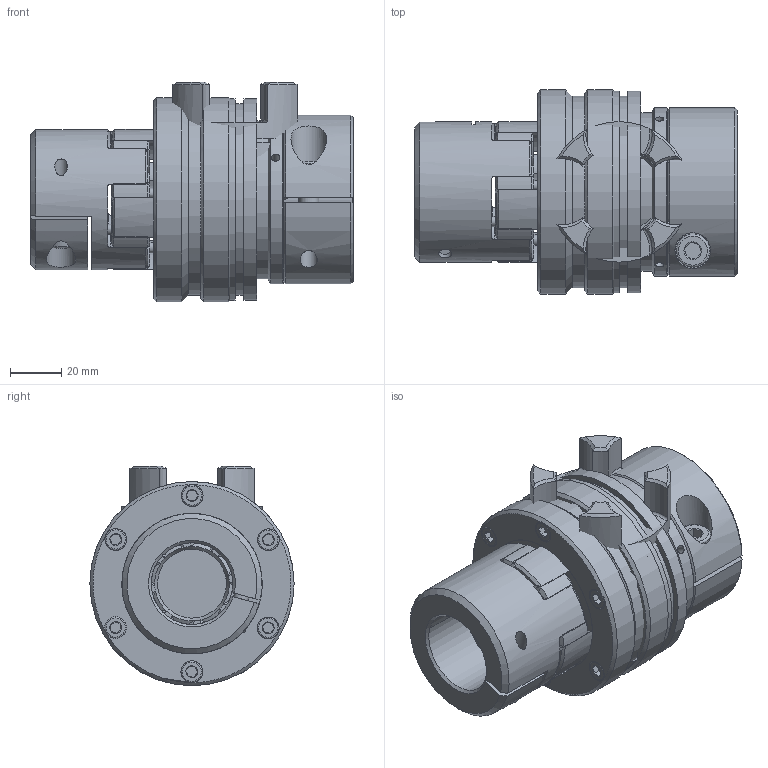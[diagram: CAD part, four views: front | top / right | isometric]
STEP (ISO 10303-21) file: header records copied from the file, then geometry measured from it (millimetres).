
FILE_DESCRIPTION( ( 'Unknown' ), '1' );
FILE_NAME( 'C:/Dokumente und Einstellungen/Sven/Desktop/hp kbk/E-KK/KBK EKK-24-115.stp', 'Unknown', ( 'Unknown' ), ( 'Unknown' ), 'XStep 1.0', 'Unknown', ' ' );
FILE_SCHEMA( ( 'automotive_design' ) );
Length unit declared in the file: millimetre
Products named in the file (17): Assem1; Assem2; ball_bearing_-_6007_0_01_0; ball_bearing_-_6007_0_02_0; ball_bearing_-_6007_0_03_0; Stellring 60_0; Druckring 60_0; Flansch 60_0; a_35_0; Elastomerflansch 24_0; Zahnkranz_24_Standard_0; ISO EN DIN 4762_M5x20_0; KBE 2 - 24_Nabe; KBK L-K-60 Grundkörper_0; Klemmnabe 60_0; ISO EN DIN 4762 M8x25; ISO EN DIN 4762 M6x18
Bounding box: 126.5 x 80 x 86 mm (x, y, z)
Volume: 713321.1 mm3; surface area: 269415.6 mm2
Topology: 38 solids, 38 shells, 1006 faces, 2194 edges, 1338 vertices
Faces by surface type: cone 329, cylinder 312, plane 296, torus 69
Full cylindrical faces by diameter (mm): 2.5 x4, 3.242 x6, 4 x22, 4.134 x12, 5 x11, 5.2 x12, 6 x4, 6.5 x2, 6.647 x2, 7 x2, 8 x4, 8.5 x21, 10 x2, 11.4 x2, 13 x2, 14 x2, 15 x2, 27 x4, 30 x2, 32 x4, 33 x2, 35 x7, 43.7 x6, 44 x2, 46 x4, 46.5 x2, 53.6 x6, 55 x4, 61.3 x2, 62 x7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
Entity records: 12602 total; most frequent: CARTESIAN_POINT 3125, DIRECTION 2044, ORIENTED_EDGE 1626, AXIS2_PLACEMENT_3D 948, EDGE_CURVE 813, EDGE_LOOP 642, VERTEX_POINT 557, FACE_OUTER_BOUND 536
